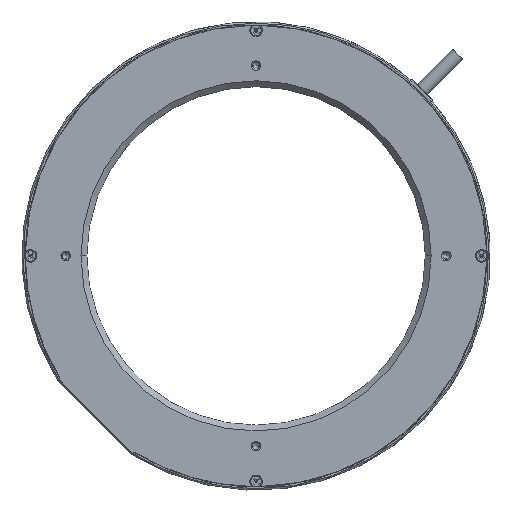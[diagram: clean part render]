
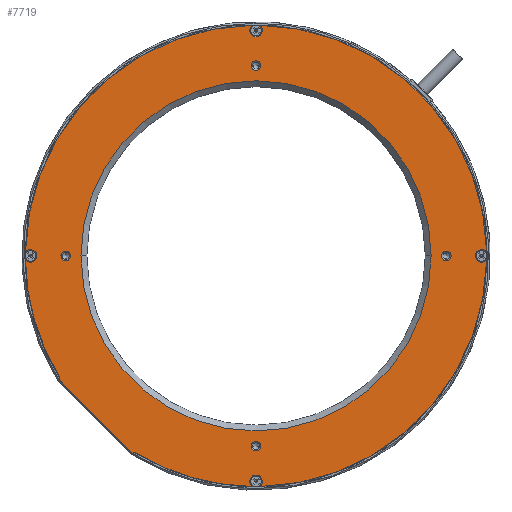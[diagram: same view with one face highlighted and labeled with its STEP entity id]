
A CAD part, top view. The second image highlights one B-rep face of the part: STEP entity #7719.
In plain terms, the highlighted planar face has unit normal (0, 0, 1).
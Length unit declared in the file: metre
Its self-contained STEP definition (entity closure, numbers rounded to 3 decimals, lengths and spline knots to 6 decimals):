
#1357=CARTESIAN_POINT('',(0.,0.,0.002));
#1358=DIRECTION('',(0.,0.,-1.));
#1359=DIRECTION('',(-1.,0.,0.));
#1360=AXIS2_PLACEMENT_3D('',#1357,#1358,#1359);
#1362=CARTESIAN_POINT('',(0.,0.,0.002));
#1363=DIRECTION('',(0.,0.,-1.));
#1364=DIRECTION('',(1.,0.,0.));
#1365=AXIS2_PLACEMENT_3D('',#1362,#1363,#1364);
#1367=CARTESIAN_POINT('',(0.,-0.065,0.002));
#1368=DIRECTION('',(0.,0.,-1.));
#1369=DIRECTION('',(-1.,0.,0.));
#1370=AXIS2_PLACEMENT_3D('',#1367,#1368,#1369);
#1372=CARTESIAN_POINT('',(0.,-0.065,0.002));
#1373=DIRECTION('',(0.,0.,-1.));
#1374=DIRECTION('',(1.,0.,0.));
#1375=AXIS2_PLACEMENT_3D('',#1372,#1373,#1374);
#1377=CARTESIAN_POINT('',(0.065,0.,0.002));
#1378=DIRECTION('',(0.,0.,-1.));
#1379=DIRECTION('',(0.,-1.,0.));
#1380=AXIS2_PLACEMENT_3D('',#1377,#1378,#1379);
#1382=CARTESIAN_POINT('',(0.065,0.,0.002));
#1383=DIRECTION('',(0.,0.,-1.));
#1384=DIRECTION('',(0.,1.,0.));
#1385=AXIS2_PLACEMENT_3D('',#1382,#1383,#1384);
#1387=CARTESIAN_POINT('',(0.,0.065,0.002));
#1388=DIRECTION('',(0.,0.,-1.));
#1389=DIRECTION('',(1.,0.,0.));
#1390=AXIS2_PLACEMENT_3D('',#1387,#1388,#1389);
#1392=CARTESIAN_POINT('',(0.,0.065,0.002));
#1393=DIRECTION('',(0.,0.,-1.));
#1394=DIRECTION('',(-1.,0.,0.));
#1395=AXIS2_PLACEMENT_3D('',#1392,#1393,#1394);
#1397=CARTESIAN_POINT('',(-0.065,0.,0.002));
#1398=DIRECTION('',(0.,0.,-1.));
#1399=DIRECTION('',(0.,1.,0.));
#1400=AXIS2_PLACEMENT_3D('',#1397,#1398,#1399);
#1402=CARTESIAN_POINT('',(-0.065,0.,0.002));
#1403=DIRECTION('',(0.,0.,-1.));
#1404=DIRECTION('',(0.,-1.,0.));
#1405=AXIS2_PLACEMENT_3D('',#1402,#1403,#1404);
#1407=CARTESIAN_POINT('',(0.,0.,0.002));
#1408=DIRECTION('',(0.,0.,1.));
#1409=DIRECTION('',(-0.523,-0.853,0.));
#1410=AXIS2_PLACEMENT_3D('',#1407,#1408,#1409);
#1412=CARTESIAN_POINT('',(-0.041445,-0.067608,0.002));
#1413=DIRECTION('',(0.,0.,-1.));
#1414=DIRECTION('',(-0.707,0.707,0.));
#1415=AXIS2_PLACEMENT_3D('',#1412,#1413,#1414);
#1417=DIRECTION('',(0.707,0.707,0.));
#1418=VECTOR('',#1417,0.000337);
#1419=CARTESIAN_POINT('',(-0.042037,-0.067492,0.002));
#1420=LINE('',#1419,#1418);
#1421=DIRECTION('',(0.707,-0.707,0.));
#1422=VECTOR('',#1421,0.036);
#1423=CARTESIAN_POINT('',(-0.067492,-0.042037,0.002));
#1424=LINE('',#1423,#1422);
#1425=DIRECTION('',(-0.707,-0.707,0.));
#1426=VECTOR('',#1425,0.000337);
#1427=CARTESIAN_POINT('',(-0.067254,-0.041798,0.002));
#1428=LINE('',#1427,#1426);
#1429=CARTESIAN_POINT('',(-0.067608,-0.041445,0.002));
#1430=DIRECTION('',(0.,0.,-1.));
#1431=DIRECTION('',(0.853,0.523,0.));
#1432=AXIS2_PLACEMENT_3D('',#1429,#1430,#1431);
#1434=CARTESIAN_POINT('',(0.,0.,0.002));
#1435=DIRECTION('',(0.,0.,1.));
#1436=DIRECTION('',(-1.,-0.015,0.));
#1437=AXIS2_PLACEMENT_3D('',#1434,#1435,#1436);
#1439=CARTESIAN_POINT('',(0.,0.,0.002));
#1440=DIRECTION('',(0.,0.,1.));
#1441=DIRECTION('',(-0.015,1.,0.));
#1442=AXIS2_PLACEMENT_3D('',#1439,#1440,#1441);
#1444=CARTESIAN_POINT('',(0.,0.,0.002));
#1445=DIRECTION('',(0.,0.,1.));
#1446=DIRECTION('',(1.,0.015,0.));
#1447=AXIS2_PLACEMENT_3D('',#1444,#1445,#1446);
#1449=CARTESIAN_POINT('',(0.,0.,0.002));
#1450=DIRECTION('',(0.,0.,1.));
#1451=DIRECTION('',(0.015,-1.,0.));
#1452=AXIS2_PLACEMENT_3D('',#1449,#1450,#1451);
#1648=CARTESIAN_POINT('',(0.,-0.077,0.002));
#1649=DIRECTION('',(0.,0.,-1.));
#1650=DIRECTION('',(-0.553,-0.833,0.));
#1651=AXIS2_PLACEMENT_3D('',#1648,#1649,#1650);
#3214=CARTESIAN_POINT('',(0.077,0.,0.002));
#3215=DIRECTION('',(0.,0.,-1.));
#3216=DIRECTION('',(0.833,-0.553,0.));
#3217=AXIS2_PLACEMENT_3D('',#3214,#3215,#3216);
#3541=CARTESIAN_POINT('',(0.,0.077,0.002));
#3542=DIRECTION('',(0.,0.,-1.));
#3543=DIRECTION('',(0.553,0.833,0.));
#3544=AXIS2_PLACEMENT_3D('',#3541,#3542,#3543);
#3868=CARTESIAN_POINT('',(-0.077,0.,0.002));
#3869=DIRECTION('',(0.,0.,-1.));
#3870=DIRECTION('',(-0.833,0.553,0.));
#3871=AXIS2_PLACEMENT_3D('',#3868,#3869,#3870);
#4524=CARTESIAN_POINT('',(-0.041184,-0.067182,0.002));
#4525=CARTESIAN_POINT('',(-0.001189,-0.078791,0.002));
#4526=VERTEX_POINT('',#4524);
#4527=VERTEX_POINT('',#4525);
#4528=CARTESIAN_POINT('',(-0.041798,-0.067254,0.002));
#4529=VERTEX_POINT('',#4528);
#4530=CARTESIAN_POINT('',(-0.042037,-0.067492,0.002));
#4531=VERTEX_POINT('',#4530);
#4532=CARTESIAN_POINT('',(-0.067492,-0.042037,0.002));
#4533=VERTEX_POINT('',#4532);
#4534=CARTESIAN_POINT('',(-0.067254,-0.041798,0.002));
#4535=VERTEX_POINT('',#4534);
#4536=CARTESIAN_POINT('',(-0.067182,-0.041184,0.002));
#4537=VERTEX_POINT('',#4536);
#4538=CARTESIAN_POINT('',(-0.078791,-0.001189,0.002));
#4539=VERTEX_POINT('',#4538);
#4540=CARTESIAN_POINT('',(-0.001189,0.078791,0.002));
#4541=CARTESIAN_POINT('',(-0.078791,0.001189,0.002));
#4542=VERTEX_POINT('',#4540);
#4543=VERTEX_POINT('',#4541);
#4544=CARTESIAN_POINT('',(0.078791,0.001189,0.002));
#4545=CARTESIAN_POINT('',(0.001189,0.078791,0.002));
#4546=VERTEX_POINT('',#4544);
#4547=VERTEX_POINT('',#4545);
#4548=CARTESIAN_POINT('',(0.001189,-0.078791,0.002));
#4549=CARTESIAN_POINT('',(0.078791,-0.001189,0.002));
#4550=VERTEX_POINT('',#4548);
#4551=VERTEX_POINT('',#4549);
#4552=CARTESIAN_POINT('',(-0.065,-0.001625,0.002));
#4553=CARTESIAN_POINT('',(-0.065,0.001625,0.002));
#4554=VERTEX_POINT('',#4552);
#4555=VERTEX_POINT('',#4553);
#4556=CARTESIAN_POINT('',(-0.001625,0.065,0.002));
#4557=CARTESIAN_POINT('',(0.001625,0.065,0.002));
#4558=VERTEX_POINT('',#4556);
#4559=VERTEX_POINT('',#4557);
#4560=CARTESIAN_POINT('',(0.065,0.001625,0.002));
#4561=CARTESIAN_POINT('',(0.065,-0.001625,0.002));
#4562=VERTEX_POINT('',#4560);
#4563=VERTEX_POINT('',#4561);
#4564=CARTESIAN_POINT('',(0.001625,-0.065,0.002));
#4565=CARTESIAN_POINT('',(-0.001625,-0.065,0.002));
#4566=VERTEX_POINT('',#4564);
#4567=VERTEX_POINT('',#4565);
#4568=CARTESIAN_POINT('',(0.0598,0.,0.002));
#4569=CARTESIAN_POINT('',(-0.0598,0.,0.002));
#4570=VERTEX_POINT('',#4568);
#4571=VERTEX_POINT('',#4569);
#7656=CARTESIAN_POINT('',(0.,0.,0.002));
#7657=DIRECTION('',(0.,0.,-1.));
#7658=DIRECTION('',(-1.,0.,0.));
#7659=AXIS2_PLACEMENT_3D('',#7656,#7657,#7658);
#7660=PLANE('',#7659);
#7662=ORIENTED_EDGE('',*,*,#7661,.F.);
#7664=ORIENTED_EDGE('',*,*,#7663,.F.);
#7666=ORIENTED_EDGE('',*,*,#7665,.F.);
#7668=ORIENTED_EDGE('',*,*,#7667,.F.);
#7670=ORIENTED_EDGE('',*,*,#7669,.F.);
#7672=ORIENTED_EDGE('',*,*,#7671,.F.);
#7674=ORIENTED_EDGE('',*,*,#7673,.F.);
#7676=ORIENTED_EDGE('',*,*,#7675,.F.);
#7678=ORIENTED_EDGE('',*,*,#7677,.F.);
#7680=ORIENTED_EDGE('',*,*,#7679,.F.);
#7682=ORIENTED_EDGE('',*,*,#7681,.F.);
#7684=ORIENTED_EDGE('',*,*,#7683,.F.);
#7686=ORIENTED_EDGE('',*,*,#7685,.F.);
#7688=ORIENTED_EDGE('',*,*,#7687,.F.);
#7689=EDGE_LOOP('',(#7662,#7664,#7666,#7668,#7670,#7672,#7674,#7676,#7678,#7680,
#7682,#7684,#7686,#7688));
#7690=FACE_OUTER_BOUND('',#7689,.F.);
#7692=ORIENTED_EDGE('',*,*,#7691,.F.);
#7694=ORIENTED_EDGE('',*,*,#7693,.F.);
#7695=EDGE_LOOP('',(#7692,#7694));
#7696=FACE_BOUND('',#7695,.F.);
#7698=ORIENTED_EDGE('',*,*,#7697,.F.);
#7700=ORIENTED_EDGE('',*,*,#7699,.F.);
#7701=EDGE_LOOP('',(#7698,#7700));
#7702=FACE_BOUND('',#7701,.F.);
#7704=ORIENTED_EDGE('',*,*,#7703,.F.);
#7706=ORIENTED_EDGE('',*,*,#7705,.F.);
#7707=EDGE_LOOP('',(#7704,#7706));
#7708=FACE_BOUND('',#7707,.F.);
#7710=ORIENTED_EDGE('',*,*,#7709,.F.);
#7712=ORIENTED_EDGE('',*,*,#7711,.F.);
#7713=EDGE_LOOP('',(#7710,#7712));
#7714=FACE_BOUND('',#7713,.F.);
#7715=ORIENTED_EDGE('',*,*,#7649,.F.);
#7716=ORIENTED_EDGE('',*,*,#7635,.F.);
#7717=EDGE_LOOP('',(#7715,#7716));
#7718=FACE_BOUND('',#7717,.F.);
#7719=ADVANCED_FACE('',(#7690,#7696,#7702,#7708,#7714,#7718),#7660,.F.);
#1361=CIRCLE('',#1360,0.0598);
#1366=CIRCLE('',#1365,0.0598);
#1371=CIRCLE('',#1370,0.001625);
#1376=CIRCLE('',#1375,0.001625);
#1381=CIRCLE('',#1380,0.001625);
#1386=CIRCLE('',#1385,0.001625);
#1391=CIRCLE('',#1390,0.001625);
#1396=CIRCLE('',#1395,0.001625);
#1401=CIRCLE('',#1400,0.001625);
#1406=CIRCLE('',#1405,0.001625);
#1411=CIRCLE('',#1410,0.0788);
#1416=CIRCLE('',#1415,0.0005);
#1433=CIRCLE('',#1432,0.0005);
#1438=CIRCLE('',#1437,0.0788);
#1443=CIRCLE('',#1442,0.0788);
#1448=CIRCLE('',#1447,0.0788);
#1453=CIRCLE('',#1452,0.0788);
#1652=CIRCLE('',#1651,0.00215);
#3218=CIRCLE('',#3217,0.00215);
#3545=CIRCLE('',#3544,0.00215);
#3872=CIRCLE('',#3871,0.00215);
#7635=EDGE_CURVE('',#4570,#4571,#1366,.T.);
#7649=EDGE_CURVE('',#4571,#4570,#1361,.T.);
#7661=EDGE_CURVE('',#4527,#4550,#1652,.T.);
#7663=EDGE_CURVE('',#4526,#4527,#1411,.T.);
#7665=EDGE_CURVE('',#4529,#4526,#1416,.T.);
#7667=EDGE_CURVE('',#4531,#4529,#1420,.T.);
#7669=EDGE_CURVE('',#4533,#4531,#1424,.T.);
#7671=EDGE_CURVE('',#4535,#4533,#1428,.T.);
#7673=EDGE_CURVE('',#4537,#4535,#1433,.T.);
#7675=EDGE_CURVE('',#4539,#4537,#1438,.T.);
#7677=EDGE_CURVE('',#4543,#4539,#3872,.T.);
#7679=EDGE_CURVE('',#4542,#4543,#1443,.T.);
#7681=EDGE_CURVE('',#4547,#4542,#3545,.T.);
#7683=EDGE_CURVE('',#4546,#4547,#1448,.T.);
#7685=EDGE_CURVE('',#4551,#4546,#3218,.T.);
#7687=EDGE_CURVE('',#4550,#4551,#1453,.T.);
#7691=EDGE_CURVE('',#4567,#4566,#1371,.T.);
#7693=EDGE_CURVE('',#4566,#4567,#1376,.T.);
#7697=EDGE_CURVE('',#4563,#4562,#1381,.T.);
#7699=EDGE_CURVE('',#4562,#4563,#1386,.T.);
#7703=EDGE_CURVE('',#4559,#4558,#1391,.T.);
#7705=EDGE_CURVE('',#4558,#4559,#1396,.T.);
#7709=EDGE_CURVE('',#4555,#4554,#1401,.T.);
#7711=EDGE_CURVE('',#4554,#4555,#1406,.T.);
